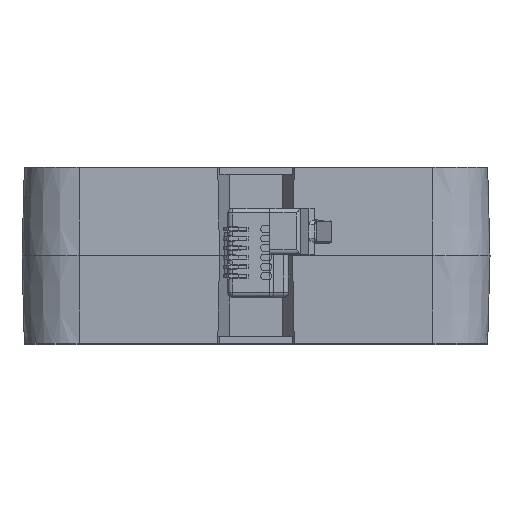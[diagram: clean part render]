
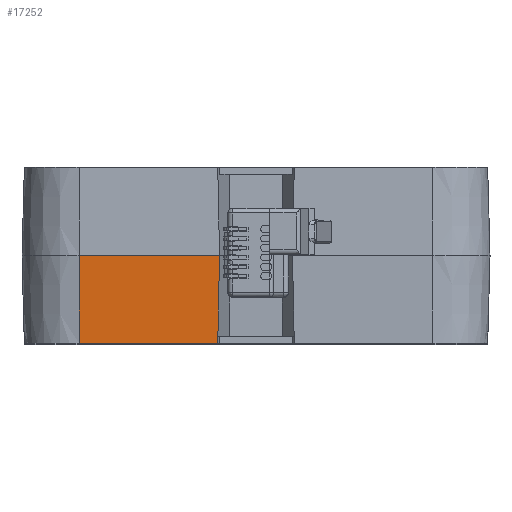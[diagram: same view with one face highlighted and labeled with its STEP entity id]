
A CAD part, top view. The second image highlights one B-rep face of the part: STEP entity #17252.
In plain terms, the highlighted planar face has unit normal (0, -0.026, 1).
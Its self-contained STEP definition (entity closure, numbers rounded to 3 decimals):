
#394 = LINE ( 'NONE', #20669, #52087 ) ;
#1409 = VECTOR ( 'NONE', #14676, 1000. ) ;
#9798 = VERTEX_POINT ( 'NONE', #44626 ) ;
#9873 = LINE ( 'NONE', #25321, #1409 ) ;
#10522 = ORIENTED_EDGE ( 'NONE', *, *, #24124, .F. ) ;
#10651 = DIRECTION ( 'NONE',  ( 0., -0.026, 1. ) ) ;
#11577 = DIRECTION ( 'NONE',  ( 1., 0., 0. ) ) ;
#11886 = VECTOR ( 'NONE', #11577, 1000. ) ;
#11913 = LINE ( 'NONE', #12227, #11886 ) ;
#12227 = CARTESIAN_POINT ( 'NONE',  ( -19.2, 9.55, 38.1 ) ) ;
#13109 = DIRECTION ( 'NONE',  ( 1., 0., 0. ) ) ;
#14676 = DIRECTION ( 'NONE',  ( -0.02, -0.999, -0.026 ) ) ;
#15332 = VERTEX_POINT ( 'NONE', #42607 ) ;
#15797 = FACE_OUTER_BOUND ( 'NONE', #21249, .T. ) ;
#17252 = ADVANCED_FACE ( 'NONE', ( #15797 ), #45482, .T. ) ;
#20669 = CARTESIAN_POINT ( 'NONE',  ( -19.2, 9.55, 38.1 ) ) ;
#21249 = EDGE_LOOP ( 'NONE', ( #23499, #10522, #22836, #32159 ) ) ;
#22320 = CARTESIAN_POINT ( 'NONE',  ( -19.2, 0., 37.85 ) ) ;
#22836 = ORIENTED_EDGE ( 'NONE', *, *, #32261, .F. ) ;
#23499 = ORIENTED_EDGE ( 'NONE', *, *, #60428, .T. ) ;
#24124 = EDGE_CURVE ( 'NONE', #15332, #55418, #9873, .T. ) ;
#25215 = DIRECTION ( 'NONE',  ( 0., 1., 0.026 ) ) ;
#25321 = CARTESIAN_POINT ( 'NONE',  ( -3.962, 9.513, 38.099 ) ) ;
#26372 = AXIS2_PLACEMENT_3D ( 'NONE', #40289, #10651, #44507 ) ;
#32132 = LINE ( 'NONE', #36935, #38141 ) ;
#32159 = ORIENTED_EDGE ( 'NONE', *, *, #52971, .F. ) ;
#32261 = EDGE_CURVE ( 'NONE', #9798, #15332, #11913, .T. ) ;
#36935 = CARTESIAN_POINT ( 'NONE',  ( -19.2, 0., 37.85 ) ) ;
#38141 = VECTOR ( 'NONE', #13109, 1000. ) ;
#40289 = CARTESIAN_POINT ( 'NONE',  ( -19.2, 9.55, 38.1 ) ) ;
#42607 = CARTESIAN_POINT ( 'NONE',  ( -3.961, 9.55, 38.1 ) ) ;
#43366 = CARTESIAN_POINT ( 'NONE',  ( -4.151, 0., 37.85 ) ) ;
#44507 = DIRECTION ( 'NONE',  ( 0., -1., -0.026 ) ) ;
#44626 = CARTESIAN_POINT ( 'NONE',  ( -19.2, 9.55, 38.1 ) ) ;
#45482 = PLANE ( 'NONE',  #26372 ) ;
#47751 = VERTEX_POINT ( 'NONE', #22320 ) ;
#52087 = VECTOR ( 'NONE', #25215, 1000. ) ;
#52971 = EDGE_CURVE ( 'NONE', #47751, #9798, #394, .T. ) ;
#55418 = VERTEX_POINT ( 'NONE', #43366 ) ;
#60428 = EDGE_CURVE ( 'NONE', #47751, #55418, #32132, .T. ) ;
